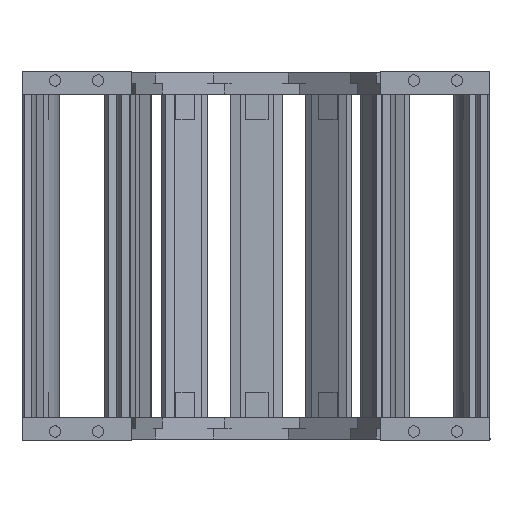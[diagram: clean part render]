
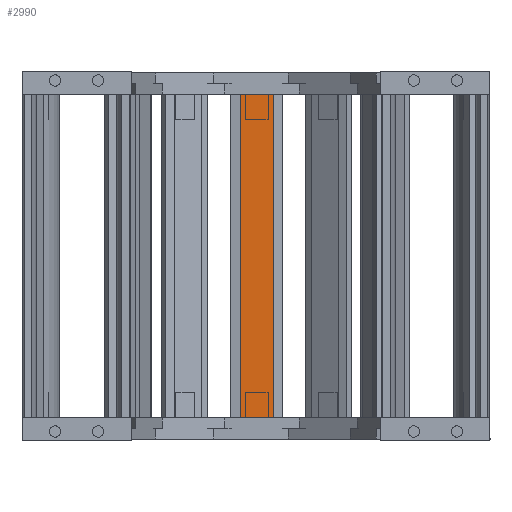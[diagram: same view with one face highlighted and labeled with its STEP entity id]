
A CAD part, left-side view. The second image highlights one B-rep face of the part: STEP entity #2990.
In plain terms, the highlighted planar face has unit normal (-1, 0.005, 0) as drawn and (0, -1, 0) by its records, which use the part's own axes.
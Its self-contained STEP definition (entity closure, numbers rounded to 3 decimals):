
#2823=DIRECTION('',(0.,0.,-1.));
#2824=VECTOR('',#2823,225.5);
#2825=CARTESIAN_POINT('',(-11.5,-72.,37.5));
#2826=LINE('',#2825,#2824);
#2852=DIRECTION('',(1.,0.,0.));
#2853=VECTOR('',#2852,23.);
#2854=CARTESIAN_POINT('',(-11.5,-72.,37.5));
#2855=LINE('',#2854,#2853);
#2909=DIRECTION('',(-1.,0.,0.));
#2910=VECTOR('',#2909,23.);
#2911=CARTESIAN_POINT('',(11.5,-72.,-188.));
#2912=LINE('',#2911,#2910);
#2937=DIRECTION('',(0.,0.,-1.));
#2938=VECTOR('',#2937,225.5);
#2939=CARTESIAN_POINT('',(11.5,-72.,37.5));
#2940=LINE('',#2939,#2938);
#2957=CARTESIAN_POINT('',(11.5,-72.,-188.));
#2958=VERTEX_POINT('',#2957);
#2959=CARTESIAN_POINT('',(-11.5,-72.,-188.));
#2960=VERTEX_POINT('',#2959);
#2969=CARTESIAN_POINT('',(11.5,-72.,37.5));
#2970=VERTEX_POINT('',#2969);
#2973=CARTESIAN_POINT('',(-11.5,-72.,37.5));
#2974=VERTEX_POINT('',#2973);
#2975=CARTESIAN_POINT('',(15.5,-72.,-188.));
#2976=DIRECTION('',(0.,1.,0.));
#2977=DIRECTION('',(-1.,0.,0.));
#2978=AXIS2_PLACEMENT_3D('',#2975,#2976,#2977);
#2979=PLANE('',#2978);
#2981=ORIENTED_EDGE('',*,*,#2980,.F.);
#2983=ORIENTED_EDGE('',*,*,#2982,.T.);
#2985=ORIENTED_EDGE('',*,*,#2984,.T.);
#2987=ORIENTED_EDGE('',*,*,#2986,.T.);
#2988=EDGE_LOOP('',(#2981,#2983,#2985,#2987));
#2989=FACE_OUTER_BOUND('',#2988,.F.);
#2990=ADVANCED_FACE('',(#2989),#2979,.F.);
#2980=EDGE_CURVE('',#2974,#2960,#2826,.T.);
#2982=EDGE_CURVE('',#2974,#2970,#2855,.T.);
#2984=EDGE_CURVE('',#2970,#2958,#2940,.T.);
#2986=EDGE_CURVE('',#2958,#2960,#2912,.T.);
